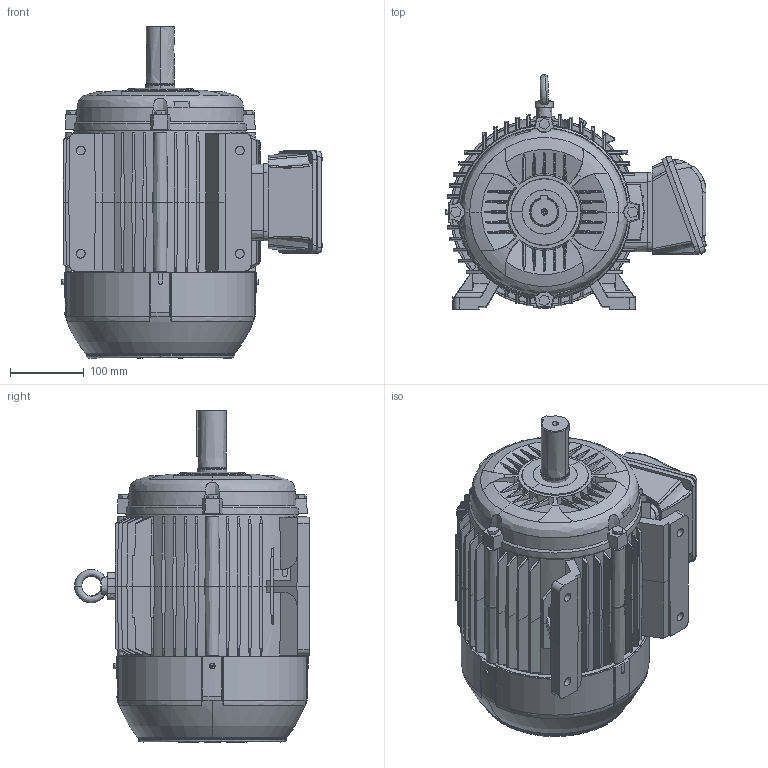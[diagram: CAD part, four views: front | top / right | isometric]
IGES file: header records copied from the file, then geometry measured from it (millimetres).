
Start section: SolidWorks IGES file using analytic representation for surfaces
Global section: file name: Z:\IEC\W22_GENERAL_PURPOSE\13_FRAME_132S\STANDARD\IGS\132S_RIGHT.IGS; native system: SolidWorks 2015; preprocessor: SolidWorks 2015; author: jeyson; date: 160314.172055; units: millimetre
Bounding box: 354.05 x 319 x 450.7 mm (x, y, z)
Surface area: 966657.4 mm2 (no closed solid volume)
Topology: 0 solids, 0 shells, 2413 faces, 18457 edges, 18446 vertices
Faces by surface type: bspline 2060, revolution 353
